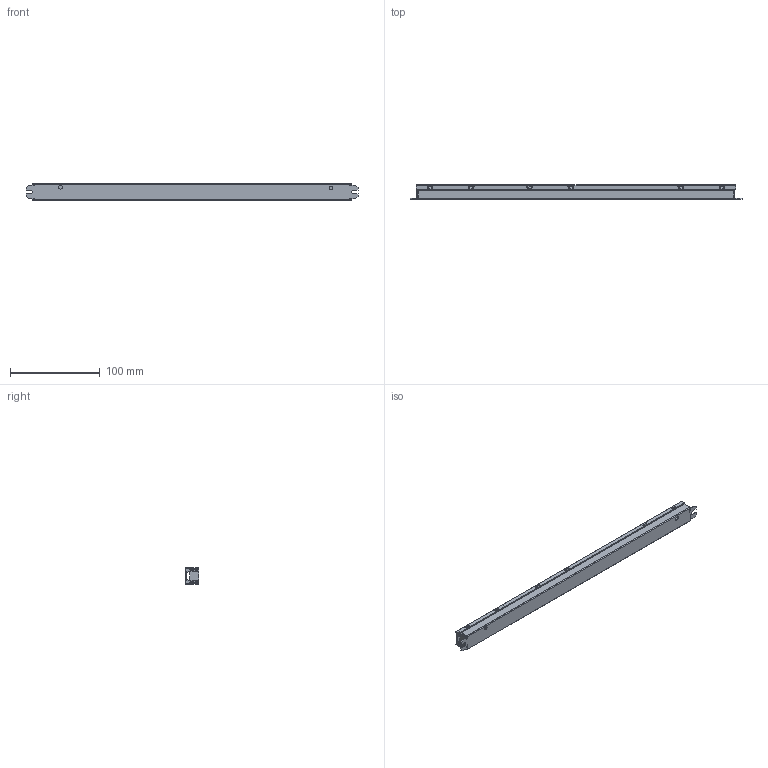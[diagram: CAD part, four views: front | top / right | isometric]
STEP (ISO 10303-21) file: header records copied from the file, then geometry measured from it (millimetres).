
FILE_DESCRIPTION((''),'2;1');
FILE_NAME('80W_CASE_ASM','2026-02-03T14:03:43',('15365'),(''),'CREO PARAMETRIC BY PTC INC, 2025323','CREO PARAMETRIC BY PTC INC, 2025323','');
FILE_SCHEMA(('CONFIG_CONTROL_DESIGN'));
Length unit declared in the file: millimetre
Products named in the file (4): 80W_BOTTOM; 80W_TOP; 80W_CEGAI; 80W_CASE_ASM
Assembly tree (4 placements, depth 2):
  80W_CASE_ASM
    80W_BOTTOM
    80W_TOP
    80W_CEGAI  x2
Bounding box: 370 x 15.6 x 18.5 mm (x, y, z)
Volume: 15629.9 mm3; surface area: 52514.5 mm2
Topology: 4 solids, 4 shells, 616 faces, 1416 edges, 808 vertices
Faces by surface type: plane 348, cylinder 168, bspline 100
Entity records: 24532 total; most frequent: CARTESIAN_POINT 11864, ORIENTED_EDGE 2700, DIRECTION 2326, EDGE_CURVE 1350, VECTOR 974, LINE 974, VERTEX_POINT 764, AXIS2_PLACEMENT_3D 676
